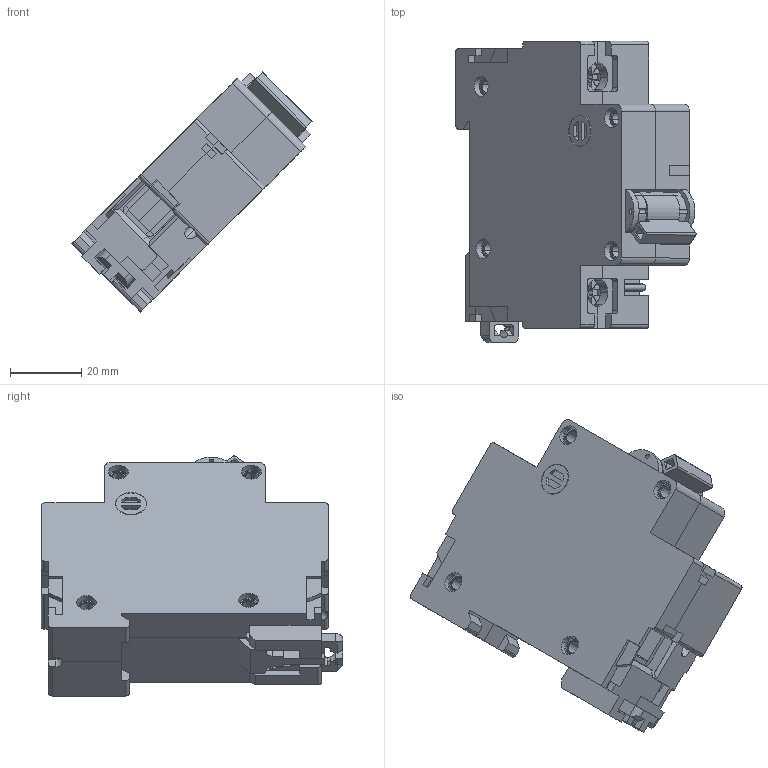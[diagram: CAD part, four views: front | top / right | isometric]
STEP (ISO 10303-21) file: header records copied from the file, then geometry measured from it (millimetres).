
FILE_DESCRIPTION (( 'STEP AP214' ), '1' );
FILE_NAME ('ÂÀ47-100 1 ïîëþñ.STEP', '2022-11-18T09:32:58', ( '' ), ( '' ), 'SwSTEP 2.0', 'SolidWorks 2018', '' );
FILE_SCHEMA (( 'AUTOMOTIVE_DESIGN' ));
Length unit declared in the file: millimetre
Products named in the file (11): Áîêîâèíà ëåâàÿ ÂÀ47-100; 栺樏鋋 鴈儰罻襜譇 臍47-100; ﾂ鏆鮏 ﾂﾀ47-100; Êîëîäêà ÂÀ47-100; 青汶篪赅 (吕47-29) 14.02.2022; ÂÀ47-100 1 ïîëþñ; Ðó÷êà ÂÀ47-100; 鎔艜 臍47-100; Çàù¸ëêà ÂÀ47-100_¤«ï á¡®àª¨; Çàêëåïêà ÂÀ47-100_1-å; Áîêîâèíà ïðàâàÿ ÂÀ47-100
Assembly tree (17 placements, depth 2):
  ÂÀ47-100 1 ïîëþñ
    Áîêîâèíà ëåâàÿ ÂÀ47-100
    Áîêîâèíà ïðàâàÿ ÂÀ47-100
    Çàù¸ëêà ÂÀ47-100_¤«ï á¡®àª¨
    Çàêëåïêà ÂÀ47-100_1-å  x4
    青汶篪赅 (吕47-29) 14.02.2022  x2
    Ðó÷êà ÂÀ47-100
    鎔艜 臍47-100  x2
    Êîëîäêà ÂÀ47-100  x2
    栺樏鋋 鴈儰罻襜譇 臍47-100
    ﾂ鏆鮏 ﾂﾀ47-100  x2
Bounding box: 67.23 x 84.3 x 67.16 mm (x, y, z)
Volume: 99205.6 mm3; surface area: 39782.3 mm2
Topology: 17 solids, 17 shells, 875 faces, 2299 edges, 1482 vertices
Faces by surface type: plane 625, cylinder 210, torus 40
Entity records: 21092 total; most frequent: CARTESIAN_POINT 3738, ORIENTED_EDGE 3566, DIRECTION 3462, EDGE_CURVE 1783, VECTOR 1390, LINE 1390, VERTEX_POINT 1160, AXIS2_PLACEMENT_3D 1036
